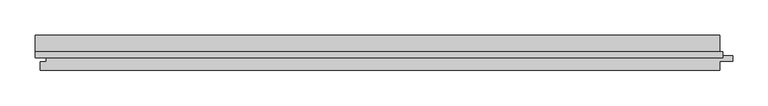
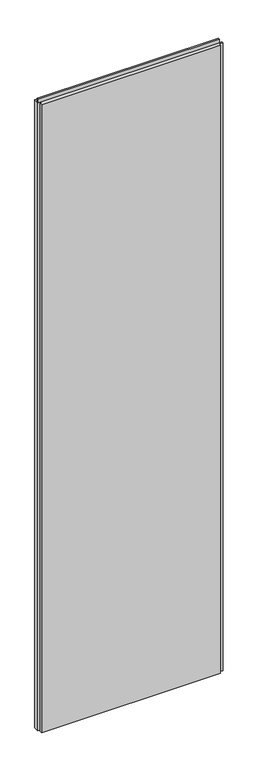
"""IFC4 building model written with IfcOpenShell, lengths in millimetres: plate geometry, Trimo_Qbiss Screen_Normal Panel-VERTICAL : HR - FB."""

from ifc_helpers import new_model, si_unit, frame, origin, place, context, project, spatial, polyline, outline, extrude, source, transform, mapped, element, save


def plate_9ea4f8e3(model_context):
    return source(origin(), model_context, "Body", "SweptSolid", [
        extrude(outline(polyline([(-488.5, 93.9), (-488.5, 102.6), (488.5, 102.6), (488.5, 93.9), (-488.5, 93.9)])), frame((0.0, 0.0, 3590.5), z_axis=(0.0, 0.0, 1.0), x_axis=(1.0, 0.0, 0.0)), (0.0, 0.0, 1.0), 19.0),
        extrude(outline(polyline([(484.5, 97.0), (503.0, 97.0), (503.0, 89.0), (484.5, 89.0), (484.5, 76.0), (-481.5, 76.0), (-481.5, 88.0), (-473.0, 88.0), (-473.0, 98.0), (-488.5, 98.0), (-488.5, 126.0), (484.5, 126.0), (484.5, 97.0)])), frame((0.0, 0.0, 12.5), z_axis=(0.0, 0.0, 1.0), x_axis=(1.0, 0.0, 0.0)), (0.0, 0.0, 1.0), 3575.0),
    ])


if __name__ == "__main__":
    model = new_model("IFC4")
    model_context = context("Model", 3, world=origin())
    ifc_project = project(units=[si_unit("LENGTHUNIT", "METRE", prefix="MILLI")], contexts=[model_context])
    site = spatial("IfcSite", under=ifc_project)
    building = spatial("IfcBuilding", under=site)
    placement = place(None, origin())
    plate_shape = plate_9ea4f8e3(model_context)
    element("IfcPlate", 1, ObjectType="Trimo_Qbiss Screen_Normal Panel-VERTICAL : HR - FB", at=placement, inside=building, context=model_context, shape_type="MappedRepresentation", body=[
        mapped(plate_shape, transform((0.0, 0.0, 0.0), x_axis=(1.0, 0.0, 0.0), y_axis=(0.0, 1.0, 0.0), z_axis=(0.0, 0.0, 1.0))),
    ])
    save(model, "model.ifc")
